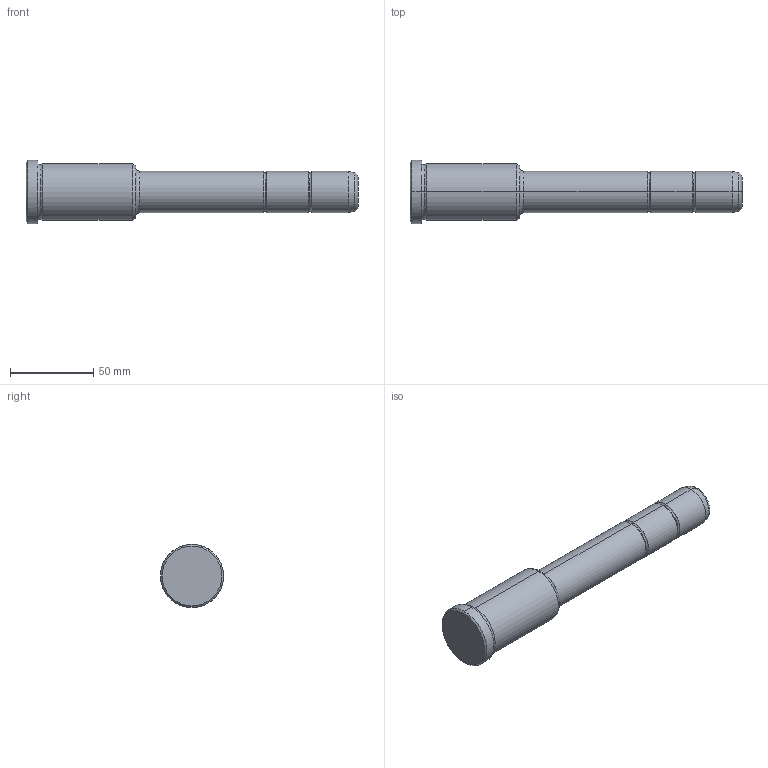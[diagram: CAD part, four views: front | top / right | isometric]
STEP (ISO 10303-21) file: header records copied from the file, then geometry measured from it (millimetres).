
FILE_DESCRIPTION(('CATIA V5 STEP Exchange'),'2;1');
FILE_NAME('C:\Users\Utente\Desktop\IO LAVORO\3D X SITO CF\X SITO\PLASTICA\351\351-25X66X200.stp','2021-09-07T10:06:35+00:00',('none'),('none'),'CATIA Version 5 Release 20 GA (IN-10)','CATIA V5 STEP AP203','none');
FILE_SCHEMA(('CONFIG_CONTROL_DESIGN'));
Length unit declared in the file: millimetre
Products named in the file (1): 351-25X66X200
Bounding box: 200 x 38 x 38 mm (x, y, z)
Volume: 126494.2 mm3; surface area: 19620.3 mm2
Topology: 1 solids, 1 shells, 36 faces, 102 edges, 70 vertices
Faces by surface type: torus 16, cylinder 10, cone 6, plane 4
Entity records: 1292 total; most frequent: CARTESIAN_POINT 321, ORIENTED_EDGE 204, DIRECTION 166, AXIS2_PLACEMENT_3D 115, EDGE_CURVE 102, CIRCLE 78, VERTEX_POINT 70, EDGE_LOOP 38
